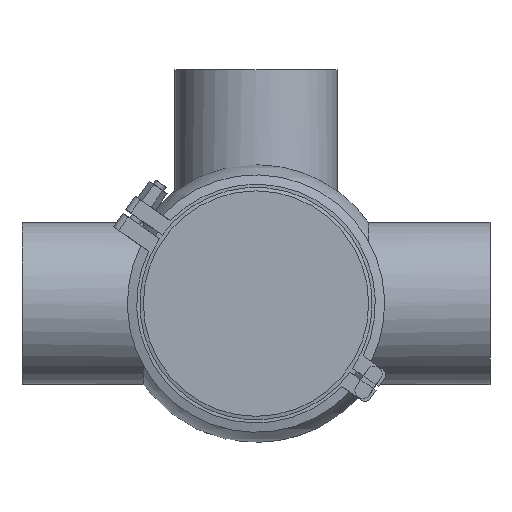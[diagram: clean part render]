
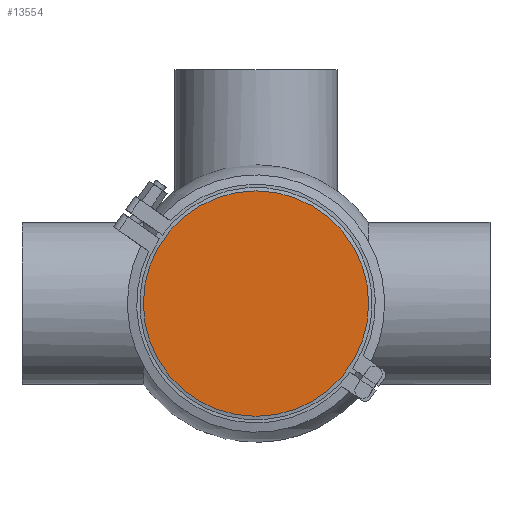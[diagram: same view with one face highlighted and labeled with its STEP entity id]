
A CAD part, front view. The second image highlights one B-rep face of the part: STEP entity #13554.
In plain terms, the highlighted planar face has unit normal (0, -1, 0).
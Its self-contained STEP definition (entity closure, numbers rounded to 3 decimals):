
#68 = DIRECTION ( 'NONE',  ( 0., 0., 1. ) ) ;
#3042 = PLANE ( 'NONE',  #8140 ) ;
#3425 = DIRECTION ( 'NONE',  ( 0., 1., 0. ) ) ;
#4292 = EDGE_LOOP ( 'NONE', ( #9407 ) ) ;
#8140 = AXIS2_PLACEMENT_3D ( 'NONE', #14362, #20925, #9599 ) ;
#9284 = FACE_OUTER_BOUND ( 'NONE', #4292, .T. ) ;
#9407 = ORIENTED_EDGE ( 'NONE', *, *, #14380, .F. ) ;
#9599 = DIRECTION ( 'NONE',  ( 0., 0., -1. ) ) ;
#13554 = ADVANCED_FACE ( 'NONE', ( #9284 ), #3042, .T. ) ;
#14362 = CARTESIAN_POINT ( 'NONE',  ( -72.25, 0., 0. ) ) ;
#14380 = EDGE_CURVE ( 'NONE', #15953, #15953, #20027, .T. ) ;
#14547 = CARTESIAN_POINT ( 'NONE',  ( 0., 0., 72.25 ) ) ;
#15047 = CARTESIAN_POINT ( 'NONE',  ( 0., 0., 0. ) ) ;
#15953 = VERTEX_POINT ( 'NONE', #14547 ) ;
#19356 = AXIS2_PLACEMENT_3D ( 'NONE', #15047, #3425, #68 ) ;
#20027 = CIRCLE ( 'NONE', #19356, 72.25 ) ;
#20925 = DIRECTION ( 'NONE',  ( 0., -1., 0. ) ) ;
